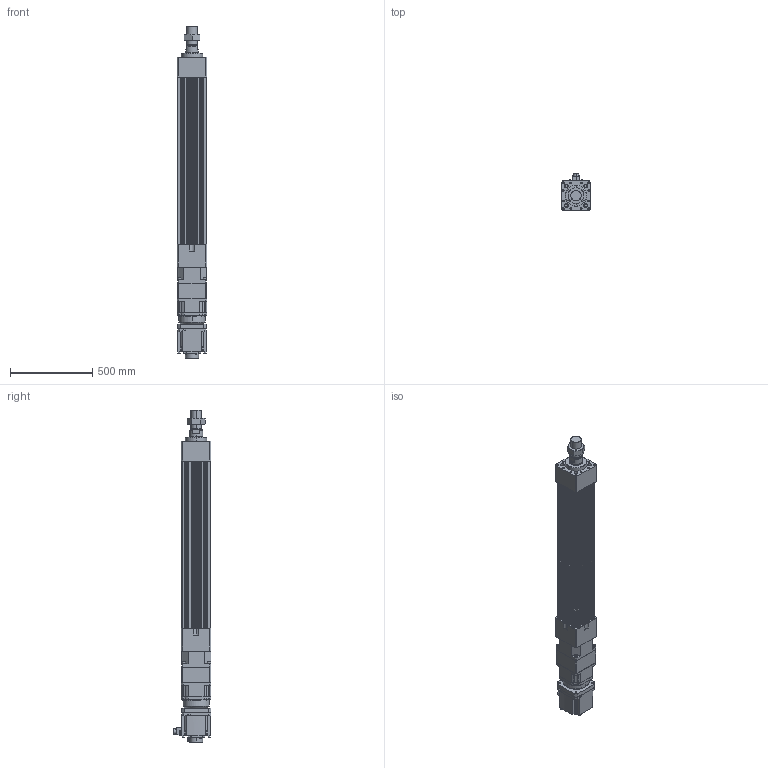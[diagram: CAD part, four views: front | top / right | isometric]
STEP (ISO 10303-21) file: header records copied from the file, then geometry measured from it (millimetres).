
FILE_DESCRIPTION (( 'STEP AP203' ), '1' );
FILE_NAME ('HES180HS-S700-W050G00-M.STEP', '2023-02-01T09:55:25', ( 'tms' ), ( '' ), 'SwSTEP 2.0', 'SolidWorks 2013', '' );
FILE_SCHEMA (( 'CONFIG_CONTROL_DESIGN' ));
Length unit declared in the file: millimetre
Products named in the file (9): P0403600401; HES180HS-S700-W050G00-M; HG-SR502; AB180-003[HG-SR702B]; M64X2.0P; HES180 ROD M ST700; AB1801; P1301600001; HES180-S700-G180
Assembly tree (8 placements, depth 3):
  HES180HS-S700-W050G00-M
    HES180-S700-G180
    HES180 ROD M ST700
    M64X2.0P
    AB180-003[HG-SR702B]
      AB1801
      P1301600001
      P0403600401
    HG-SR502
Bounding box: 180 x 230.85 x 2017 mm (x, y, z)
Volume: 29831515 mm3; surface area: 2870378.9 mm2
Topology: 4 solids, 23 shells, 1534 faces, 3945 edges, 2546 vertices
Faces by surface type: cylinder 693, plane 600, cone 174, bspline 63, torus 4
Entity records: 55246 total; most frequent: CARTESIAN_POINT 16431, DIRECTION 8177, ORIENTED_EDGE 7750, EDGE_CURVE 3899, AXIS2_PLACEMENT_3D 3072, VERTEX_POINT 2546, VECTOR 2033, LINE 2033
